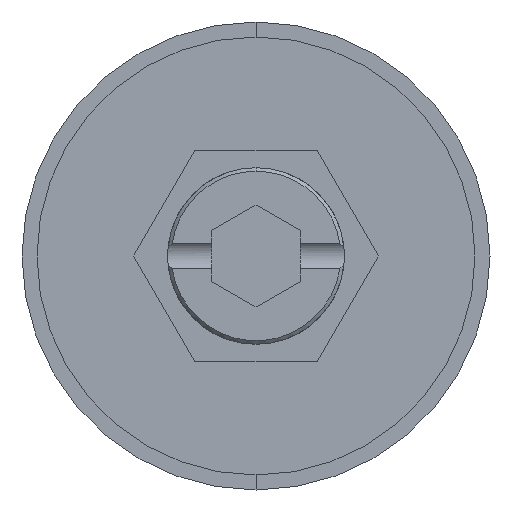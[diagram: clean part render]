
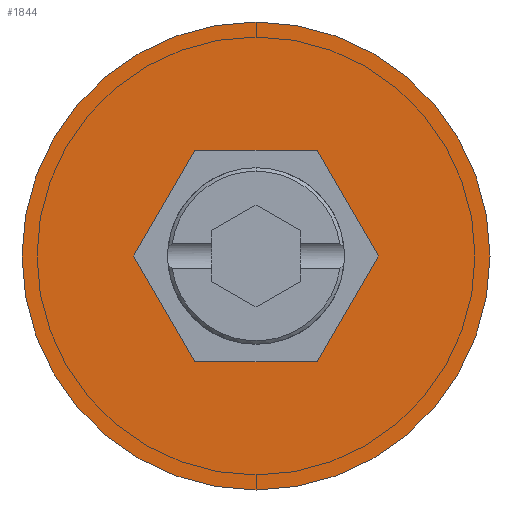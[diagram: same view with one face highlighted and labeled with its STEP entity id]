
A CAD part, front view. The second image highlights one B-rep face of the part: STEP entity #1844.
In plain terms, the highlighted planar face has unit normal (0, -1, 0).
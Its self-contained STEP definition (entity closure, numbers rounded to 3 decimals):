
#94 = ORIENTED_EDGE ( 'NONE', *, *, #1335, .F. ) ;
#163 = VECTOR ( 'NONE', #2632, 1000. ) ;
#165 = VECTOR ( 'NONE', #3584, 1000. ) ;
#177 = ORIENTED_EDGE ( 'NONE', *, *, #1102, .F. ) ;
#182 = DIRECTION ( 'NONE',  ( -1., 0., 0. ) ) ;
#260 = LINE ( 'NONE', #2101, #165 ) ;
#293 = EDGE_CURVE ( 'NONE', #1752, #3575, #2260, .T. ) ;
#326 = CARTESIAN_POINT ( 'NONE',  ( -3.464, 0., -6. ) ) ;
#330 = CARTESIAN_POINT ( 'NONE',  ( 0., 0., -13.25 ) ) ;
#357 = LINE ( 'NONE', #504, #2805 ) ;
#407 = AXIS2_PLACEMENT_3D ( 'NONE', #598, #1497, #3416 ) ;
#409 = PLANE ( 'NONE',  #792 ) ;
#424 = VECTOR ( 'NONE', #3482, 1000. ) ;
#485 = EDGE_CURVE ( 'NONE', #547, #2636, #260, .T. ) ;
#498 = VERTEX_POINT ( 'NONE', #3045 ) ;
#504 = CARTESIAN_POINT ( 'NONE',  ( -3.464, 0., 6. ) ) ;
#547 = VERTEX_POINT ( 'NONE', #2481 ) ;
#598 = CARTESIAN_POINT ( 'NONE',  ( 0., 0., 0. ) ) ;
#613 = DIRECTION ( 'NONE',  ( 0., -1., 0. ) ) ;
#792 = AXIS2_PLACEMENT_3D ( 'NONE', #2652, #2968, #980 ) ;
#980 = DIRECTION ( 'NONE',  ( 0., 0., -1. ) ) ;
#1102 = EDGE_CURVE ( 'NONE', #2242, #547, #2100, .T. ) ;
#1153 = FACE_BOUND ( 'NONE', #2246, .T. ) ;
#1155 = LINE ( 'NONE', #4016, #1618 ) ;
#1191 = EDGE_CURVE ( 'NONE', #498, #2242, #1920, .T. ) ;
#1265 = FACE_OUTER_BOUND ( 'NONE', #3161, .T. ) ;
#1335 = EDGE_CURVE ( 'NONE', #2750, #2412, #1155, .T. ) ;
#1497 = DIRECTION ( 'NONE',  ( 0., -1., 0. ) ) ;
#1586 = CIRCLE ( 'NONE', #3881, 13.25 ) ;
#1618 = VECTOR ( 'NONE', #182, 1000. ) ;
#1752 = VERTEX_POINT ( 'NONE', #2930 ) ;
#1772 = ORIENTED_EDGE ( 'NONE', *, *, #3342, .F. ) ;
#1844 = ADVANCED_FACE ( 'NONE', ( #1153, #1265 ), #409, .T. ) ;
#1920 = LINE ( 'NONE', #3659, #3527 ) ;
#2019 = CARTESIAN_POINT ( 'NONE',  ( 6.928, 0., 0. ) ) ;
#2051 = CARTESIAN_POINT ( 'NONE',  ( 3.464, 0., 6. ) ) ;
#2100 = LINE ( 'NONE', #326, #424 ) ;
#2101 = CARTESIAN_POINT ( 'NONE',  ( 3.464, 0., -6. ) ) ;
#2242 = VERTEX_POINT ( 'NONE', #2826 ) ;
#2246 = EDGE_LOOP ( 'NONE', ( #177, #2639, #1772, #94, #3374, #2538 ) ) ;
#2260 = CIRCLE ( 'NONE', #407, 13.25 ) ;
#2300 = CARTESIAN_POINT ( 'NONE',  ( 6.928, 0., 0. ) ) ;
#2412 = VERTEX_POINT ( 'NONE', #2904 ) ;
#2421 = ORIENTED_EDGE ( 'NONE', *, *, #293, .T. ) ;
#2481 = CARTESIAN_POINT ( 'NONE',  ( 3.464, 0., -6. ) ) ;
#2492 = EDGE_CURVE ( 'NONE', #2636, #2750, #2715, .T. ) ;
#2529 = CARTESIAN_POINT ( 'NONE',  ( 0., 0., 0. ) ) ;
#2538 = ORIENTED_EDGE ( 'NONE', *, *, #485, .F. ) ;
#2632 = DIRECTION ( 'NONE',  ( -0.5, 0., 0.866 ) ) ;
#2636 = VERTEX_POINT ( 'NONE', #2019 ) ;
#2639 = ORIENTED_EDGE ( 'NONE', *, *, #1191, .F. ) ;
#2652 = CARTESIAN_POINT ( 'NONE',  ( 0., 0., 0. ) ) ;
#2715 = LINE ( 'NONE', #2300, #163 ) ;
#2750 = VERTEX_POINT ( 'NONE', #2051 ) ;
#2805 = VECTOR ( 'NONE', #3684, 1000. ) ;
#2826 = CARTESIAN_POINT ( 'NONE',  ( -3.464, 0., -6. ) ) ;
#2844 = DIRECTION ( 'NONE',  ( 0., 0., -1. ) ) ;
#2904 = CARTESIAN_POINT ( 'NONE',  ( -3.464, 0., 6. ) ) ;
#2930 = CARTESIAN_POINT ( 'NONE',  ( 0., 0., 13.25 ) ) ;
#2968 = DIRECTION ( 'NONE',  ( 0., -1., 0. ) ) ;
#3045 = CARTESIAN_POINT ( 'NONE',  ( -6.928, 0., 0. ) ) ;
#3161 = EDGE_LOOP ( 'NONE', ( #4145, #2421 ) ) ;
#3342 = EDGE_CURVE ( 'NONE', #2412, #498, #357, .T. ) ;
#3374 = ORIENTED_EDGE ( 'NONE', *, *, #2492, .F. ) ;
#3416 = DIRECTION ( 'NONE',  ( 0., 0., -1. ) ) ;
#3482 = DIRECTION ( 'NONE',  ( 1., 0., 0. ) ) ;
#3527 = VECTOR ( 'NONE', #3646, 1000. ) ;
#3575 = VERTEX_POINT ( 'NONE', #330 ) ;
#3584 = DIRECTION ( 'NONE',  ( 0.5, 0., 0.866 ) ) ;
#3646 = DIRECTION ( 'NONE',  ( 0.5, 0., -0.866 ) ) ;
#3659 = CARTESIAN_POINT ( 'NONE',  ( -6.928, 0., 0. ) ) ;
#3684 = DIRECTION ( 'NONE',  ( -0.5, 0., -0.866 ) ) ;
#3881 = AXIS2_PLACEMENT_3D ( 'NONE', #2529, #613, #2844 ) ;
#3976 = EDGE_CURVE ( 'NONE', #3575, #1752, #1586, .T. ) ;
#4016 = CARTESIAN_POINT ( 'NONE',  ( 3.464, 0., 6. ) ) ;
#4145 = ORIENTED_EDGE ( 'NONE', *, *, #3976, .T. ) ;
